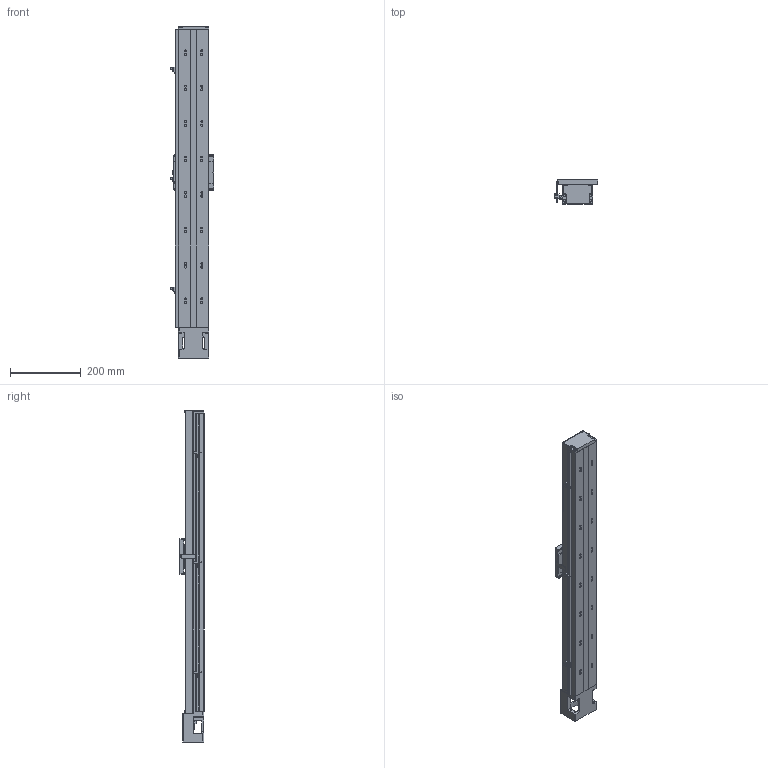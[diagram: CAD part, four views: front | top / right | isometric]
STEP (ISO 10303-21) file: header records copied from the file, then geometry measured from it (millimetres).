
FILE_DESCRIPTION (( 'STEP AP203' ), '1' );
FILE_NAME ('GKAC4686-690-12N-P20-CPXXX-網站用圖.STEP', '2023-04-07T05:37:22', ( '' ), ( '' ), 'SwSTEP 2.0', 'SolidWorks 2019', '' );
FILE_SCHEMA (( 'CONFIG_CONTROL_DESIGN' ));
Length unit declared in the file: millimetre
Products named in the file (3): GKAC4686-690-12N-P20-CPXXX-網站用圖; Group1^GKAC4686-690-12N-P20-CPXXX-網站用圖_defeature_GMT; Group2^GKAC4686-690-12N-P20-CPXXX-網站用圖_defeature_GMT
Assembly tree (2 placements, depth 2):
  GKAC4686-690-12N-P20-CPXXX-網站用圖
    Group1^GKAC4686-690-12N-P20-CPXXX-網站用圖_defeature_GMT
    Group2^GKAC4686-690-12N-P20-CPXXX-網站用圖_defeature_GMT
Bounding box: 121.4 x 68 x 937 mm (x, y, z)
Volume: 2288870.9 mm3; surface area: 702065.1 mm2
Topology: 26 solids, 34 shells, 2932 faces, 7726 edges, 4840 vertices
Faces by surface type: plane 1302, cylinder 865, cone 356, torus 194, bspline 163, sphere 52
Entity records: 100421 total; most frequent: CARTESIAN_POINT 27836, ORIENTED_EDGE 15280, DIRECTION 15183, EDGE_CURVE 7640, AXIS2_PLACEMENT_3D 5587, VERTEX_POINT 4837, LINE 4009, VECTOR 4009
